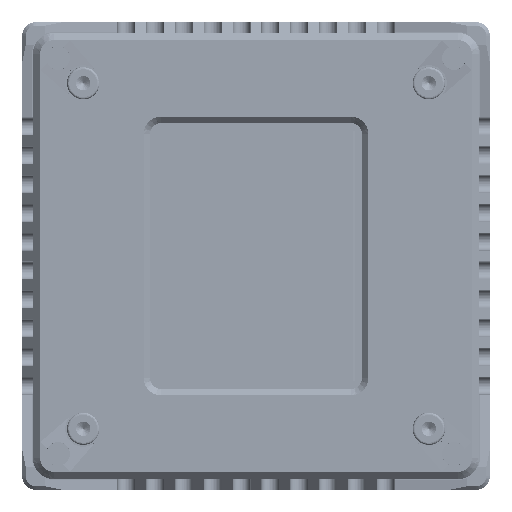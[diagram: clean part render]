
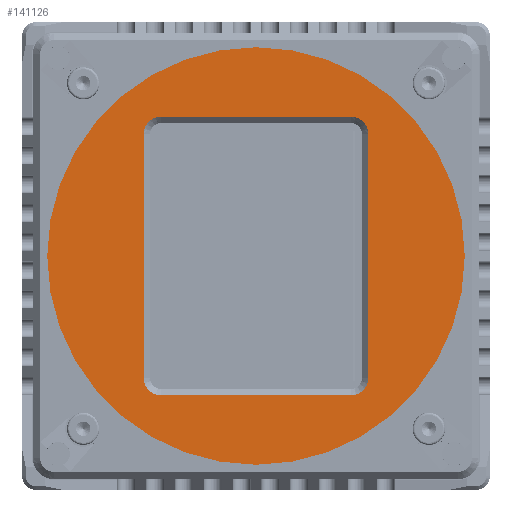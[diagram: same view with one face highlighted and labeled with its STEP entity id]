
A CAD part, left-side view. The second image highlights one B-rep face of the part: STEP entity #141126.
In plain terms, the highlighted planar face has unit normal (-1, 0, 0).
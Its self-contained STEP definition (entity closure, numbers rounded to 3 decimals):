
#83 = DIRECTION ( 'NONE',  ( 0., -1., 0. ) ) ;
#401 = CARTESIAN_POINT ( 'NONE',  ( 4.8, 278.512, 62.068 ) ) ;
#2301 = VERTEX_POINT ( 'NONE', #118958 ) ;
#11005 = CARTESIAN_POINT ( 'NONE',  ( 4.8, 252.112, 64.468 ) ) ;
#15910 = VERTEX_POINT ( 'NONE', #137779 ) ;
#16539 = CARTESIAN_POINT ( 'NONE',  ( 4.8, 280.912, 28.168 ) ) ;
#16755 = VERTEX_POINT ( 'NONE', #188154 ) ;
#17339 = CARTESIAN_POINT ( 'NONE',  ( 4.8, 265.312, 25.768 ) ) ;
#20420 = CIRCLE ( 'NONE', #220046, 2.4 ) ;
#31819 = CARTESIAN_POINT ( 'NONE',  ( 4.8, 234.952, 75.478 ) ) ;
#31854 = DIRECTION ( 'NONE',  ( 0., 0., -1. ) ) ;
#32313 = AXIS2_PLACEMENT_3D ( 'NONE', #93480, #57524, #39480 ) ;
#33176 = LINE ( 'NONE', #120196, #77837 ) ;
#36006 = VERTEX_POINT ( 'NONE', #100090 ) ;
#36142 = EDGE_CURVE ( 'NONE', #128377, #130891, #103129, .T. ) ;
#39480 = DIRECTION ( 'NONE',  ( 0., 0., 1. ) ) ;
#40234 = CARTESIAN_POINT ( 'NONE',  ( 4.8, 265.312, 45.118 ) ) ;
#52329 = AXIS2_PLACEMENT_3D ( 'NONE', #229153, #120494, #122783 ) ;
#57524 = DIRECTION ( 'NONE',  ( -1., 0., 0. ) ) ;
#59722 = EDGE_CURVE ( 'NONE', #16755, #212597, #20420, .T. ) ;
#62402 = LINE ( 'NONE', #154431, #134976 ) ;
#68527 = DIRECTION ( 'NONE',  ( -1., 0., 0. ) ) ;
#72413 = EDGE_CURVE ( 'NONE', #212597, #36006, #62402, .T. ) ;
#73033 = ORIENTED_EDGE ( 'NONE', *, *, #59722, .F. ) ;
#77837 = VECTOR ( 'NONE', #31854, 1000. ) ;
#85566 = CARTESIAN_POINT ( 'NONE',  ( 4.8, 265.312, 64.468 ) ) ;
#86038 = DIRECTION ( 'NONE',  ( -1., 0., 0. ) ) ;
#87845 = DIRECTION ( 'NONE',  ( 0., 1., 0. ) ) ;
#91084 = EDGE_LOOP ( 'NONE', ( #121505, #170867 ) ) ;
#93458 = DIRECTION ( 'NONE',  ( -1., 0., 0. ) ) ;
#93480 = CARTESIAN_POINT ( 'NONE',  ( 4.8, 252.112, 62.068 ) ) ;
#100090 = CARTESIAN_POINT ( 'NONE',  ( 4.8, 249.712, 62.068 ) ) ;
#103129 = CIRCLE ( 'NONE', #132786, 2.4 ) ;
#104997 = AXIS2_PLACEMENT_3D ( 'NONE', #40234, #93458, #230981 ) ;
#112981 = VECTOR ( 'NONE', #83, 1000. ) ;
#114123 = VECTOR ( 'NONE', #87845, 1000. ) ;
#118958 = CARTESIAN_POINT ( 'NONE',  ( 4.8, 265.312, 15.118 ) ) ;
#120196 = CARTESIAN_POINT ( 'NONE',  ( 4.8, 280.912, 45.118 ) ) ;
#120494 = DIRECTION ( 'NONE',  ( -1., 0., 0. ) ) ;
#121505 = ORIENTED_EDGE ( 'NONE', *, *, #126368, .T. ) ;
#122783 = DIRECTION ( 'NONE',  ( 0., 0., -1. ) ) ;
#125675 = CARTESIAN_POINT ( 'NONE',  ( 4.8, 278.512, 28.168 ) ) ;
#126368 = EDGE_CURVE ( 'NONE', #2301, #186513, #195887, .T. ) ;
#128377 = VERTEX_POINT ( 'NONE', #16539 ) ;
#128456 = FACE_BOUND ( 'NONE', #185224, .T. ) ;
#129859 = CIRCLE ( 'NONE', #52329, 30. ) ;
#130891 = VERTEX_POINT ( 'NONE', #158118 ) ;
#131605 = ORIENTED_EDGE ( 'NONE', *, *, #181512, .F. ) ;
#132066 = ORIENTED_EDGE ( 'NONE', *, *, #72413, .F. ) ;
#132786 = AXIS2_PLACEMENT_3D ( 'NONE', #125675, #196860, #195313 ) ;
#134976 = VECTOR ( 'NONE', #173223, 1000. ) ;
#137779 = CARTESIAN_POINT ( 'NONE',  ( 4.8, 280.912, 62.068 ) ) ;
#139090 = CARTESIAN_POINT ( 'NONE',  ( 4.8, 252.112, 28.168 ) ) ;
#141126 = ADVANCED_FACE ( 'NONE', ( #128456, #145055 ), #205434, .T. ) ;
#141894 = DIRECTION ( 'NONE',  ( -1., 0., 0. ) ) ;
#142871 = EDGE_CURVE ( 'NONE', #186513, #2301, #129859, .T. ) ;
#143928 = CIRCLE ( 'NONE', #153492, 2.4 ) ;
#145055 = FACE_OUTER_BOUND ( 'NONE', #91084, .T. ) ;
#147911 = ORIENTED_EDGE ( 'NONE', *, *, #162760, .F. ) ;
#153492 = AXIS2_PLACEMENT_3D ( 'NONE', #401, #141894, #230322 ) ;
#154431 = CARTESIAN_POINT ( 'NONE',  ( 4.8, 249.712, 45.118 ) ) ;
#156845 = DIRECTION ( 'NONE',  ( 0., 1., 0. ) ) ;
#157091 = DIRECTION ( 'NONE',  ( 0., 0., 1. ) ) ;
#158118 = CARTESIAN_POINT ( 'NONE',  ( 4.8, 278.512, 25.768 ) ) ;
#158442 = CARTESIAN_POINT ( 'NONE',  ( 4.8, 278.512, 64.468 ) ) ;
#162760 = EDGE_CURVE ( 'NONE', #36006, #177938, #207230, .T. ) ;
#164036 = ORIENTED_EDGE ( 'NONE', *, *, #194324, .F. ) ;
#170867 = ORIENTED_EDGE ( 'NONE', *, *, #142871, .T. ) ;
#173223 = DIRECTION ( 'NONE',  ( 0., 0., 1. ) ) ;
#174345 = EDGE_CURVE ( 'NONE', #130891, #16755, #219297, .T. ) ;
#177938 = VERTEX_POINT ( 'NONE', #11005 ) ;
#179112 = VERTEX_POINT ( 'NONE', #158442 ) ;
#181512 = EDGE_CURVE ( 'NONE', #177938, #179112, #214882, .T. ) ;
#182510 = EDGE_CURVE ( 'NONE', #179112, #15910, #143928, .T. ) ;
#185056 = AXIS2_PLACEMENT_3D ( 'NONE', #31819, #68527, #156845 ) ;
#185224 = EDGE_LOOP ( 'NONE', ( #202262, #131605, #147911, #132066, #73033, #225579, #191688, #164036 ) ) ;
#186513 = VERTEX_POINT ( 'NONE', #208613 ) ;
#188154 = CARTESIAN_POINT ( 'NONE',  ( 4.8, 252.112, 25.768 ) ) ;
#191688 = ORIENTED_EDGE ( 'NONE', *, *, #36142, .F. ) ;
#194324 = EDGE_CURVE ( 'NONE', #15910, #128377, #33176, .T. ) ;
#195313 = DIRECTION ( 'NONE',  ( 0., 0., 1. ) ) ;
#195887 = CIRCLE ( 'NONE', #104997, 30. ) ;
#196860 = DIRECTION ( 'NONE',  ( -1., 0., 0. ) ) ;
#202262 = ORIENTED_EDGE ( 'NONE', *, *, #182510, .F. ) ;
#205350 = CARTESIAN_POINT ( 'NONE',  ( 4.8, 249.712, 28.168 ) ) ;
#205434 = PLANE ( 'NONE',  #185056 ) ;
#207230 = CIRCLE ( 'NONE', #32313, 2.4 ) ;
#208613 = CARTESIAN_POINT ( 'NONE',  ( 4.8, 265.312, 75.118 ) ) ;
#212597 = VERTEX_POINT ( 'NONE', #205350 ) ;
#214882 = LINE ( 'NONE', #85566, #114123 ) ;
#219297 = LINE ( 'NONE', #17339, #112981 ) ;
#220046 = AXIS2_PLACEMENT_3D ( 'NONE', #139090, #86038, #157091 ) ;
#225579 = ORIENTED_EDGE ( 'NONE', *, *, #174345, .F. ) ;
#229153 = CARTESIAN_POINT ( 'NONE',  ( 4.8, 265.312, 45.118 ) ) ;
#230322 = DIRECTION ( 'NONE',  ( 0., 0., 1. ) ) ;
#230981 = DIRECTION ( 'NONE',  ( 0., 0., -1. ) ) ;
